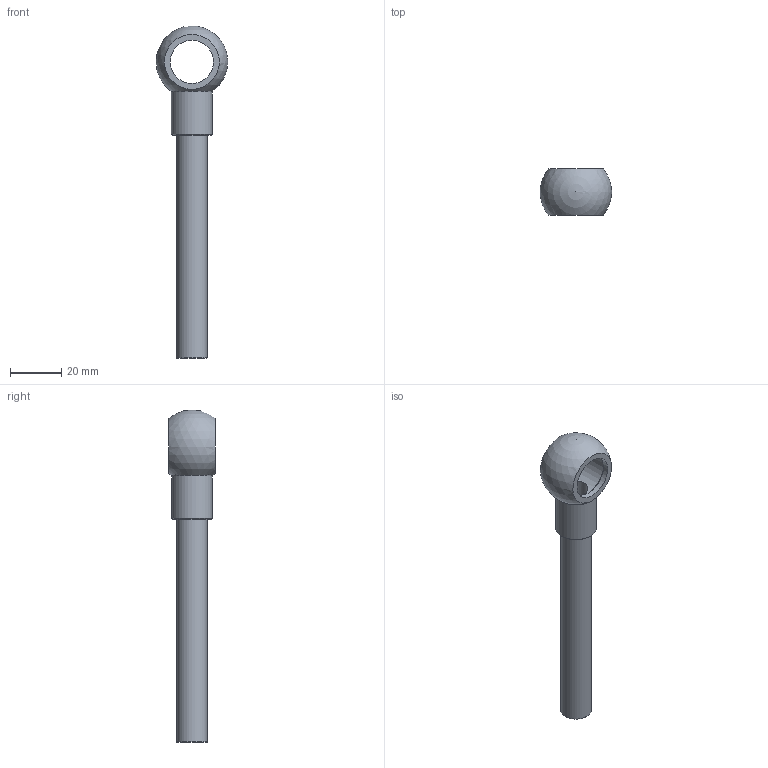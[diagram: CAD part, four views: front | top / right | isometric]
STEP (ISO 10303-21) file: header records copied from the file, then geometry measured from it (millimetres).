
FILE_DESCRIPTION(/* description */ ('Unknown'),/* implementation_level */ '2;1');
FILE_NAME(/* name */ 'TUO12-100-38',/* time_stamp */ '2024-12-05T10:40:14+01:00',/* author */ ('Unknown'),/* organization */ ('Unknown'),/* preprocessor_version */ 'ST-DEVELOPER v19.4',/* originating_system */ 'Solid Edge',/* authorisation */ 'Unknown');
FILE_SCHEMA (('AUTOMOTIVE_DESIGN {1 0 10303 214 3 1 1}'));
Length unit declared in the file: millimetre
Products named in the file (1): TUO12-100-38
Bounding box: 27.89 x 18 x 129.6 mm (x, y, z)
Volume: 10677.2 mm3; surface area: 10059.5 mm2
Topology: 1 solids, 1 shells, 23 faces, 48 edges, 32 vertices
Faces by surface type: cone 7, plane 7, cylinder 7, sphere 1, torus 1
Full cylindrical faces by diameter (mm): 9 x2, 12 x1, 15.969 x1, 16.9 x2, 20 x1
Entity records: 527 total; most frequent: DIRECTION 94, CARTESIAN_POINT 90, ORIENTED_EDGE 48, EDGE_LOOP 48, FACE_BOUND 48, AXIS2_PLACEMENT_3D 47, EDGE_CURVE 24, VERTEX_POINT 24
